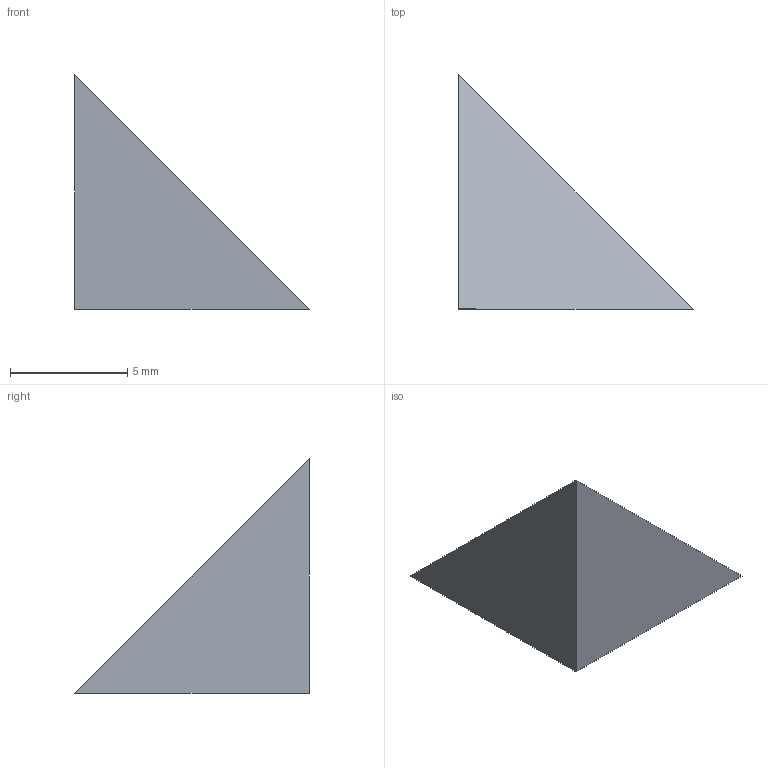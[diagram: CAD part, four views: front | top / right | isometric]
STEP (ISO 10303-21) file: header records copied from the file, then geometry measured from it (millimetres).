
FILE_DESCRIPTION(('BRL-CAD AP214 detached worker failure fixture'),'2;1');
FILE_NAME('ap214_parallel_failure.stp','2026-07-17T00:00:00',('BRL-CAD'),('BRL-CAD'),'','','');
FILE_SCHEMA(('AUTOMOTIVE_DESIGN { 1 0 10303 214 3 1 1 1 }'));
Length unit declared in the file: millimetre
Products named in the file (2): parallel_failure; invalid_child
Assembly tree (1 placements, depth 2):
  parallel_failure
    invalid_child
Bounding box: 10 x 10 x 10 mm (x, y, z)
Volume: 166.7 mm3; surface area: 386.6 mm2
Topology: 1 solids, 2 shells, 7 faces, 12 edges, 8 vertices
Faces by surface type: plane 7
Entity records: 98 total; most frequent: DIRECTION 12, ORIENTED_EDGE 12, VECTOR 6, LINE 6, EDGE_CURVE 6, AXIS2_PLACEMENT_3D 6, CARTESIAN_POINT 4, VERTEX_POINT 4
